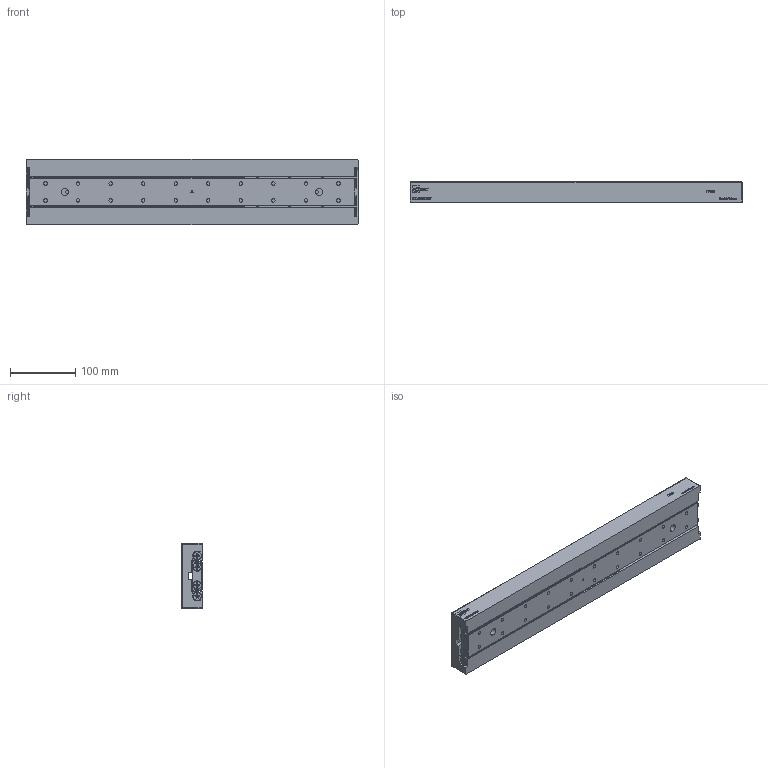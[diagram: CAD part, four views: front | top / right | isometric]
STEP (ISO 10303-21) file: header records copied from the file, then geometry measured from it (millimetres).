
FILE_DESCRIPTION (( 'STEP AP203' ), '1' );
FILE_NAME ('GRA100-510-S.STEP', '2013-12-17T05:25:24', ( '' ), ( '' ), 'SwSTEP 2.0', 'SolidWorks 2013', '' );
FILE_SCHEMA (( 'CONFIG_CONTROL_DESIGN' ));
Length unit declared in the file: millimetre
Products named in the file (1): GRA100-510-S
Bounding box: 510 x 31 x 100 mm (x, y, z)
Surface area: 246162.9 mm2 (no closed solid volume)
Topology: 0 solids, 51 shells, 380 faces, 2518 edges, 2143 vertices
Faces by surface type: plane 223, cylinder 113, torus 24, cone 16, sphere 4
Entity records: 27094 total; most frequent: CARTESIAN_POINT 8316, ORIENTED_EDGE 3445, DIRECTION 3436, EDGE_CURVE 2514, VERTEX_POINT 2143, LINE 1718, VECTOR 1718, AXIS2_PLACEMENT_3D 859
